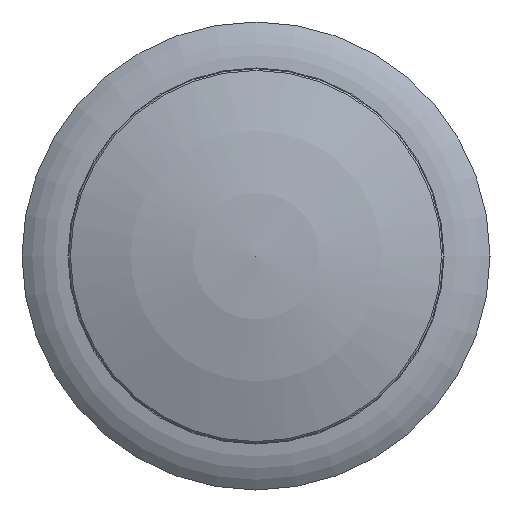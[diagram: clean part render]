
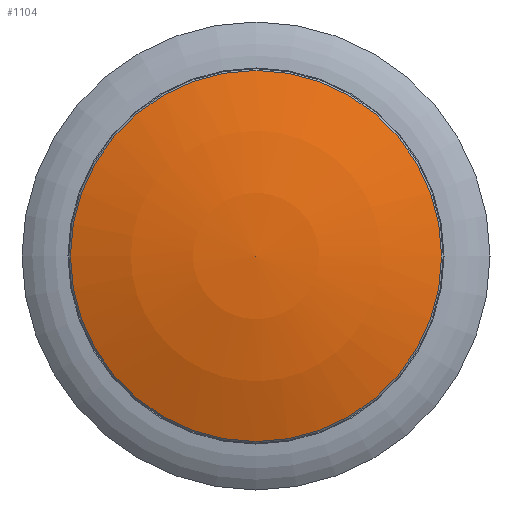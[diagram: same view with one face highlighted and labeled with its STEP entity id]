
A CAD part, left-side view. The second image highlights one B-rep face of the part: STEP entity #1104.
In plain terms, the highlighted spherical face has radius 15.795 mm.
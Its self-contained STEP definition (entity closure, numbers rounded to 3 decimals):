
#248=SPHERICAL_SURFACE('',#1222,15.795);
#279=FACE_OUTER_BOUND('',#352,.T.);
#352=EDGE_LOOP('',(#852,#853,#854,#855));
#422=CIRCLE('',#1223,5.55);
#423=CIRCLE('',#1224,5.55);
#424=CIRCLE('',#1225,15.795);
#516=VERTEX_POINT('',#4285);
#517=VERTEX_POINT('',#4286);
#518=VERTEX_POINT('',#4289);
#647=EDGE_CURVE('',#516,#517,#422,.T.);
#648=EDGE_CURVE('',#517,#516,#423,.T.);
#649=EDGE_CURVE('',#518,#517,#424,.T.);
#852=ORIENTED_EDGE('',*,*,#647,.F.);
#853=ORIENTED_EDGE('',*,*,#648,.F.);
#854=ORIENTED_EDGE('',*,*,#649,.F.);
#855=ORIENTED_EDGE('',*,*,#649,.T.);
#1104=ADVANCED_FACE('',(#279),#248,.T.);
#1222=AXIS2_PLACEMENT_3D('',#4284,#1412,#1413);
#1223=AXIS2_PLACEMENT_3D('',#4287,#1414,#1415);
#1224=AXIS2_PLACEMENT_3D('',#4288,#1416,#1417);
#1225=AXIS2_PLACEMENT_3D('',#4290,#1418,#1419);
#1412=DIRECTION('center_axis',(-1.,0.,0.));
#1413=DIRECTION('ref_axis',(0.,1.,0.));
#1414=DIRECTION('center_axis',(1.,0.,0.));
#1415=DIRECTION('ref_axis',(0.,1.,0.));
#1416=DIRECTION('center_axis',(1.,0.,0.));
#1417=DIRECTION('ref_axis',(0.,1.,0.));
#1418=DIRECTION('center_axis',(0.,0.,
1.));
#1419=DIRECTION('ref_axis',(0.,-1.,0.));
#4284=CARTESIAN_POINT('Origin',(155.955,2.711,0.));
#4285=CARTESIAN_POINT('',(141.167,8.261,0.));
#4286=CARTESIAN_POINT('',(141.167,-2.839,0.));
#4287=CARTESIAN_POINT('Origin',(141.167,2.711,0.));
#4288=CARTESIAN_POINT('Origin',(141.167,2.711,0.));
#4289=CARTESIAN_POINT('',(140.16,2.711,0.));
#4290=CARTESIAN_POINT('Origin',(155.955,2.711,0.));
